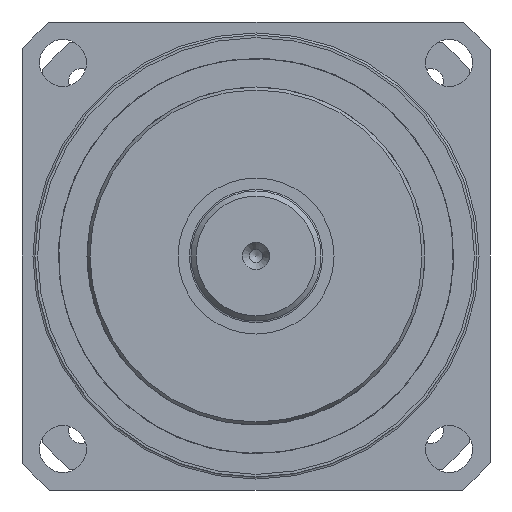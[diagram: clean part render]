
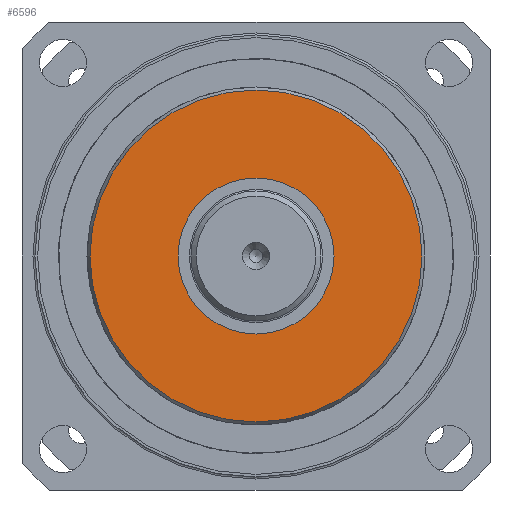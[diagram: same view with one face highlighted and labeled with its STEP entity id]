
A CAD part, left-side view. The second image highlights one B-rep face of the part: STEP entity #6596.
In plain terms, the highlighted planar face has unit normal (-1, 0, 0).
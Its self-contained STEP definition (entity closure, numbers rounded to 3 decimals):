
#625=FACE_BOUND('',#1829,.T.);
#1277=PLANE('',#7508);
#1435=FACE_OUTER_BOUND('',#1828,.T.);
#1828=EDGE_LOOP('',(#4921));
#1829=EDGE_LOOP('',(#4922,#4923));
#2367=CIRCLE('',#7504,31.923);
#2370=CIRCLE('',#7509,15.);
#2371=CIRCLE('',#7510,15.);
#3039=VERTEX_POINT('',#11194);
#3042=VERTEX_POINT('',#11204);
#3043=VERTEX_POINT('',#11205);
#3831=EDGE_CURVE('',#3039,#3039,#2367,.T.);
#3835=EDGE_CURVE('',#3042,#3043,#2370,.T.);
#3836=EDGE_CURVE('',#3043,#3042,#2371,.T.);
#4921=ORIENTED_EDGE('',*,*,#3831,.F.);
#4922=ORIENTED_EDGE('',*,*,#3835,.T.);
#4923=ORIENTED_EDGE('',*,*,#3836,.T.);
#6596=ADVANCED_FACE('',(#1435,#625),#1277,.T.);
#7504=AXIS2_PLACEMENT_3D('',#11196,#8794,#8795);
#7508=AXIS2_PLACEMENT_3D('',#11203,#8803,#8804);
#7509=AXIS2_PLACEMENT_3D('',#11206,#8805,#8806);
#7510=AXIS2_PLACEMENT_3D('',#11207,#8807,#8808);
#8794=DIRECTION('center_axis',(1.,0.,0.));
#8795=DIRECTION('ref_axis',(0.,-1.,0.));
#8803=DIRECTION('center_axis',(-1.,0.,0.));
#8804=DIRECTION('ref_axis',(0.,0.,1.));
#8805=DIRECTION('center_axis',(1.,0.,0.));
#8806=DIRECTION('ref_axis',(0.,0.,-1.));
#8807=DIRECTION('center_axis',(1.,0.,0.));
#8808=DIRECTION('ref_axis',(0.,0.,-1.));
#11194=CARTESIAN_POINT('',(0.,31.923,0.));
#11196=CARTESIAN_POINT('Origin',(0.,0.,0.));
#11203=CARTESIAN_POINT('Origin',(0.,32.5,0.));
#11204=CARTESIAN_POINT('',(0.,15.,0.));
#11205=CARTESIAN_POINT('',(0.,-15.,0.));
#11206=CARTESIAN_POINT('Origin',(0.,0.,0.));
#11207=CARTESIAN_POINT('Origin',(0.,0.,0.));
